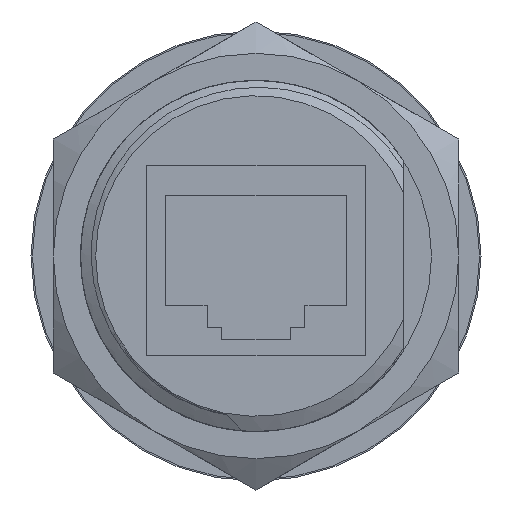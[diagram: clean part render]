
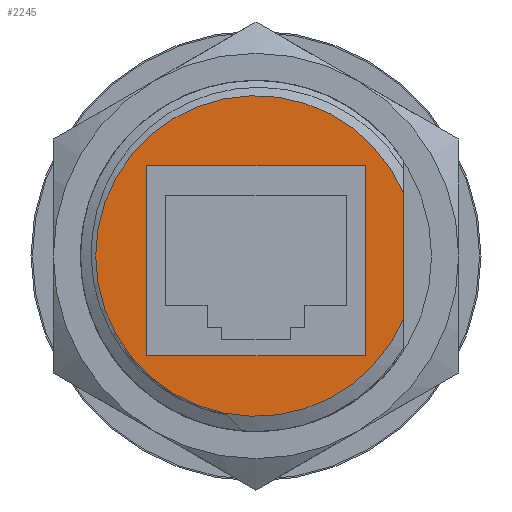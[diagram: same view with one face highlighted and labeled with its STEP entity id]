
A CAD part, left-side view. The second image highlights one B-rep face of the part: STEP entity #2245.
In plain terms, the highlighted planar face has unit normal (-1, 0, 0).
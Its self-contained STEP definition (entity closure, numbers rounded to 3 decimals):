
#197=LINE('',#6273,#390);
#212=LINE('',#6316,#405);
#216=LINE('',#6324,#409);
#219=LINE('',#6330,#412);
#222=LINE('',#6335,#415);
#390=VECTOR('',#2648,1.);
#405=VECTOR('',#2699,1.);
#409=VECTOR('',#2705,1.);
#412=VECTOR('',#2710,1.);
#415=VECTOR('',#2715,1.);
#580=FACE_BOUND('',#800,.T.);
#663=FACE_OUTER_BOUND('',#799,.T.);
#799=EDGE_LOOP('',(#1838,#1839));
#800=EDGE_LOOP('',(#1840,#1841,#1842,#1843));
#873=CIRCLE('',#2464,11.47);
#994=VERTEX_POINT('',#6268);
#995=VERTEX_POINT('',#6272);
#1001=VERTEX_POINT('',#6314);
#1002=VERTEX_POINT('',#6315);
#1005=VERTEX_POINT('',#6323);
#1007=VERTEX_POINT('',#6329);
#1247=EDGE_CURVE('',#995,#994,#197,.T.);
#1267=EDGE_CURVE('',#1001,#1002,#212,.T.);
#1271=EDGE_CURVE('',#1005,#1001,#216,.T.);
#1274=EDGE_CURVE('',#1007,#1005,#219,.T.);
#1277=EDGE_CURVE('',#1002,#1007,#222,.T.);
#1316=EDGE_CURVE('',#995,#994,#873,.T.);
#1838=ORIENTED_EDGE('',*,*,#1247,.T.);
#1839=ORIENTED_EDGE('',*,*,#1316,.F.);
#1840=ORIENTED_EDGE('',*,*,#1267,.T.);
#1841=ORIENTED_EDGE('',*,*,#1277,.T.);
#1842=ORIENTED_EDGE('',*,*,#1274,.T.);
#1843=ORIENTED_EDGE('',*,*,#1271,.T.);
#2125=PLANE('',#2463);
#2245=ADVANCED_FACE('',(#663,#580),#2125,.T.);
#2463=AXIS2_PLACEMENT_3D('',#6414,#2785,#2786);
#2464=AXIS2_PLACEMENT_3D('',#6415,#2787,#2788);
#2648=DIRECTION('',(0.,0.,1.));
#2699=DIRECTION('',(0.,0.,-1.));
#2705=DIRECTION('',(0.,-1.,0.));
#2710=DIRECTION('',(0.,0.,1.));
#2715=DIRECTION('',(0.,1.,0.));
#2785=DIRECTION('center_axis',(-1.,0.,0.));
#2786=DIRECTION('ref_axis',(0.,0.,1.));
#2787=DIRECTION('center_axis',(1.,0.,0.));
#2788=DIRECTION('ref_axis',(0.,0.,-1.));
#6268=CARTESIAN_POINT('',(0.,-10.54,4.524));
#6272=CARTESIAN_POINT('',(0.,-10.54,-4.524));
#6273=CARTESIAN_POINT('',(0.,-10.54,-10.332));
#6314=CARTESIAN_POINT('',(0.,-7.8,6.45));
#6315=CARTESIAN_POINT('',(0.,-7.8,-7.15));
#6316=CARTESIAN_POINT('',(0.,-7.8,3.225));
#6323=CARTESIAN_POINT('',(0.,7.8,6.45));
#6324=CARTESIAN_POINT('',(0.,3.9,6.45));
#6329=CARTESIAN_POINT('',(0.,7.8,-7.15));
#6330=CARTESIAN_POINT('',(0.,7.8,-3.575));
#6335=CARTESIAN_POINT('',(0.,-3.9,-7.15));
#6414=CARTESIAN_POINT('Origin',(0.,0.,0.));
#6415=CARTESIAN_POINT('Origin',(0.,0.,0.));
